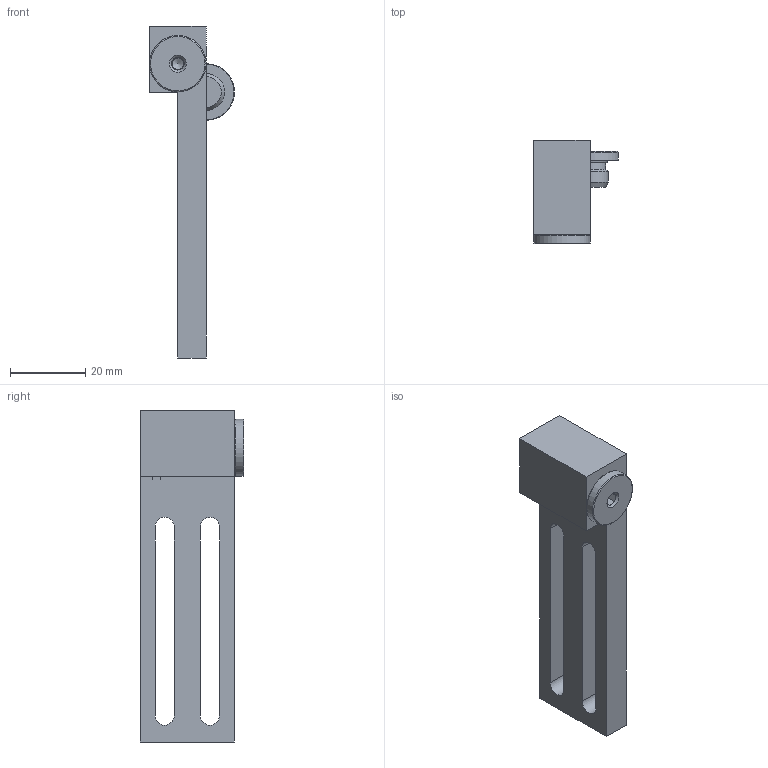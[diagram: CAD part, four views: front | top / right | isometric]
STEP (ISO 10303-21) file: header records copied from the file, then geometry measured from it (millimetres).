
FILE_DESCRIPTION( ( 'STEP AP214' ), '1' );
FILE_NAME( 'C:/Users/Segreteria/Desktop/CA.WLS.18.18.stp', '2014-07-03T12:41:30', ( ' ' ), ( ' ' ), 'XStep 1.0', ' ', ' ' );
FILE_SCHEMA( ( 'CONFIG_CONTROL_DESIGN) ( )' ) );
Length unit declared in the file: metre
Products named in the file (3): Assem1; CA.08.14.014; WLS.18.18
Bounding box: 22.5 x 27.5 x 88 mm (x, y, z)
Volume: 29669.9 mm3; surface area: 17301.8 mm2
Topology: 4 solids, 4 shells, 112 faces, 278 edges, 174 vertices
Faces by surface type: plane 78, cylinder 20, cone 12, torus 2
Full cylindrical faces by diameter (mm): 3.1 x2, 8.2 x2, 8.566 x4, 9.728 x2, 15 x2
Entity records: 1754 total; most frequent: CARTESIAN_POINT 296, DIRECTION 268, ORIENTED_EDGE 238, EDGE_CURVE 119, AXIS2_PLACEMENT_3D 102, VERTEX_POINT 82, EDGE_LOOP 78, LINE 64
